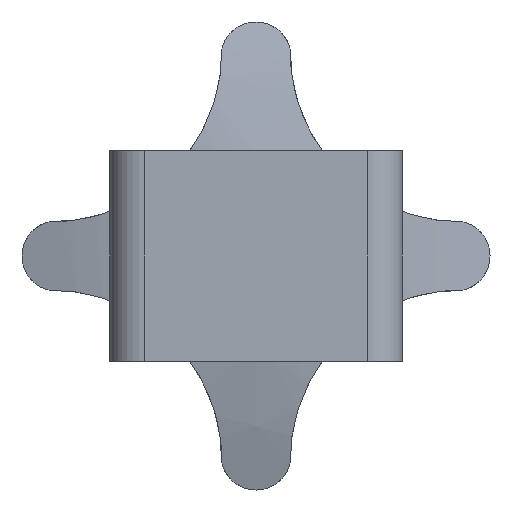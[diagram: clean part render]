
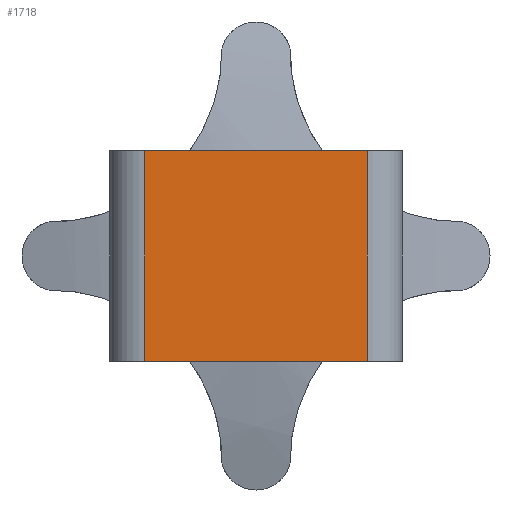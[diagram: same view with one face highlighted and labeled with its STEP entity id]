
A CAD part, front view. The second image highlights one B-rep face of the part: STEP entity #1718.
In plain terms, the highlighted planar face has unit normal (0, -1, 0).
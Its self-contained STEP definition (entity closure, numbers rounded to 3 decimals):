
#68 = LINE ( 'NONE', #2325, #613 ) ;
#174 = CARTESIAN_POINT ( 'NONE',  ( -9.5, -86.5, -9. ) ) ;
#221 = CARTESIAN_POINT ( 'NONE',  ( 9.5, -86.5, 9. ) ) ;
#294 = VECTOR ( 'NONE', #4002, 1000. ) ;
#539 = LINE ( 'NONE', #2783, #294 ) ;
#561 = VECTOR ( 'NONE', #2076, 1000. ) ;
#613 = VECTOR ( 'NONE', #1743, 1000. ) ;
#703 = LINE ( 'NONE', #1161, #561 ) ;
#771 = LINE ( 'NONE', #2230, #1687 ) ;
#853 = DIRECTION ( 'NONE',  ( 0., 1., 0. ) ) ;
#867 = DIRECTION ( 'NONE',  ( 0., 0., 1. ) ) ;
#965 = ORIENTED_EDGE ( 'NONE', *, *, #2419, .F. ) ;
#1161 = CARTESIAN_POINT ( 'NONE',  ( 9.5, -86.5, 9. ) ) ;
#1174 = VERTEX_POINT ( 'NONE', #3320 ) ;
#1256 = ORIENTED_EDGE ( 'NONE', *, *, #2666, .F. ) ;
#1450 = AXIS2_PLACEMENT_3D ( 'NONE', #221, #853, #867 ) ;
#1687 = VECTOR ( 'NONE', #2856, 1000. ) ;
#1709 = VERTEX_POINT ( 'NONE', #174 ) ;
#1718 = ADVANCED_FACE ( 'NONE', ( #3965 ), #2434, .F. ) ;
#1721 = VERTEX_POINT ( 'NONE', #3427 ) ;
#1743 = DIRECTION ( 'NONE',  ( 1., 0., 0. ) ) ;
#1800 = EDGE_CURVE ( 'NONE', #2346, #1709, #771, .T. ) ;
#2076 = DIRECTION ( 'NONE',  ( 0., 0., -1. ) ) ;
#2122 = CARTESIAN_POINT ( 'NONE',  ( -9.5, -86.5, 9. ) ) ;
#2230 = CARTESIAN_POINT ( 'NONE',  ( -9.5, -86.5, 9. ) ) ;
#2263 = ORIENTED_EDGE ( 'NONE', *, *, #1800, .T. ) ;
#2325 = CARTESIAN_POINT ( 'NONE',  ( 9.5, -86.5, 9. ) ) ;
#2346 = VERTEX_POINT ( 'NONE', #2122 ) ;
#2419 = EDGE_CURVE ( 'NONE', #2346, #1174, #68, .T. ) ;
#2434 = PLANE ( 'NONE',  #1450 ) ;
#2666 = EDGE_CURVE ( 'NONE', #1174, #1721, #703, .T. ) ;
#2783 = CARTESIAN_POINT ( 'NONE',  ( 9.5, -86.5, -9. ) ) ;
#2856 = DIRECTION ( 'NONE',  ( 0., 0., -1. ) ) ;
#3314 = ORIENTED_EDGE ( 'NONE', *, *, #3693, .T. ) ;
#3320 = CARTESIAN_POINT ( 'NONE',  ( 9.5, -86.5, 9. ) ) ;
#3427 = CARTESIAN_POINT ( 'NONE',  ( 9.5, -86.5, -9. ) ) ;
#3495 = EDGE_LOOP ( 'NONE', ( #3314, #1256, #965, #2263 ) ) ;
#3693 = EDGE_CURVE ( 'NONE', #1709, #1721, #539, .T. ) ;
#3965 = FACE_OUTER_BOUND ( 'NONE', #3495, .T. ) ;
#4002 = DIRECTION ( 'NONE',  ( 1., 0., 0. ) ) ;
